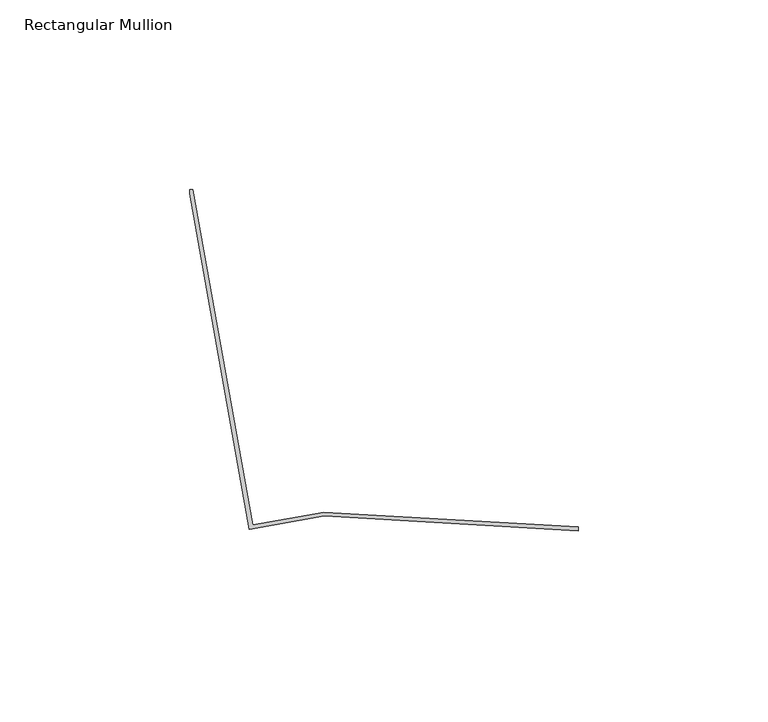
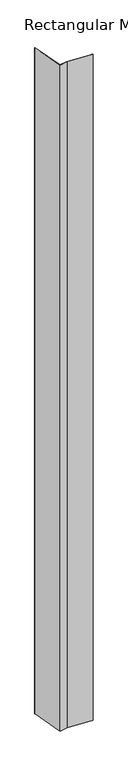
"""IFC4 building model written with IfcOpenShell, lengths in millimetres: member geometry, Rectangular Mullion : CD_NINELINE_Box Start."""

from ifc_helpers import new_model, si_unit, frame, origin, place, context, project, spatial, polyline, outline, extrude, source, transform, mapped, element, save


def rectangular_mullion_65e78ce3(model_context):
    return source(origin(), model_context, "Body", "SweptSolid", [
        extrude(outline(polyline([(-102.3753074, -0.9999629), (-102.3753074, 3.78e-05), (-101.5373726, 3.78e-05), (-85.8253425, -88.4000947), (-67.0220447, -85.0580411), (0.0, -88.9992721), (-0.0587036, -89.9975475), (-66.9630913, -86.0632353), (-86.6349168, -89.559659), (-102.3753074, -0.9999629)])), frame((0.0, 0.0, -1860.0), z_axis=(0.0, 0.0, 1.0), x_axis=(1.0, 0.0, 0.0)), (0.0, 0.0, 1.0), 1860.0),
    ])


if __name__ == "__main__":
    model = new_model("IFC4")
    model_context = context("Model", 3, world=origin())
    ifc_project = project(units=[si_unit("LENGTHUNIT", "METRE", prefix="MILLI")], contexts=[model_context])
    site = spatial("IfcSite", under=ifc_project)
    building = spatial("IfcBuilding", under=site)
    placement = place(None, origin())
    rectangular_mullion_shape = rectangular_mullion_65e78ce3(model_context)
    element("IfcMember", 1, ObjectType="Rectangular Mullion : CD_NINELINE_Box Start", at=placement, inside=building, context=model_context, shape_type="MappedRepresentation", body=[
        mapped(rectangular_mullion_shape, transform((0.0, 0.0, 0.0), x_axis=(1.0, 0.0, 0.0), y_axis=(0.0, 1.0, 0.0), z_axis=(0.0, 0.0, 1.0))),
    ])
    save(model, "model.ifc")
